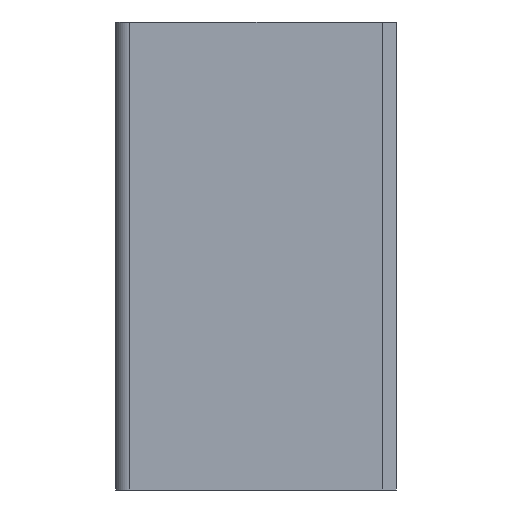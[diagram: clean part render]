
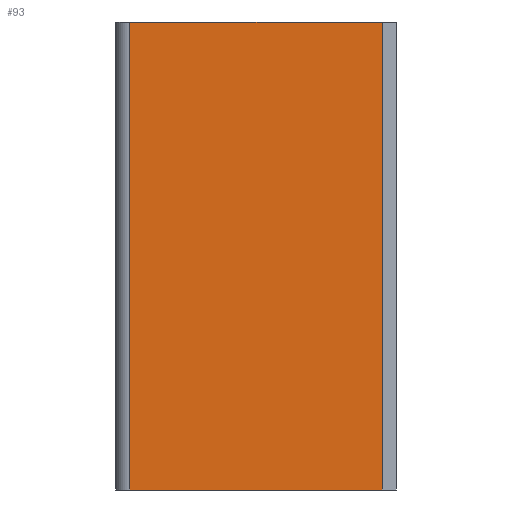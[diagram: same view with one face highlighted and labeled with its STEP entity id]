
A CAD part, left-side view. The second image highlights one B-rep face of the part: STEP entity #93.
In plain terms, the highlighted face is a extrusion surface.
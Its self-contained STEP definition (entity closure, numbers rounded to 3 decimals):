
#54=CARTESIAN_POINT('Control Point',(0.,3.,-100.)) ;
#55=CARTESIAN_POINT('Control Point',(0.,3.,0.)) ;
#59=CARTESIAN_POINT('Line Origine',(0.,30.,0.)) ;
#63=CARTESIAN_POINT('Vertex',(0.,3.,0.)) ;
#65=CARTESIAN_POINT('Vertex',(0.,57.,0.)) ;
#68=CARTESIAN_POINT('Line Origine',(0.,57.,-50.)) ;
#72=CARTESIAN_POINT('Vertex',(0.,57.,-100.)) ;
#75=CARTESIAN_POINT('Line Origine',(0.,30.,-100.)) ;
#79=CARTESIAN_POINT('Vertex',(0.,3.,-100.)) ;
#82=CARTESIAN_POINT('Line Origine',(0.,3.,-50.)) ;
#56=DIRECTION('Vector Direction',(0.,1.,0.)) ;
#60=DIRECTION('Vector Direction',(0.,1.,0.)) ;
#69=DIRECTION('Vector Direction',(0.,0.,1.)) ;
#76=DIRECTION('Vector Direction',(0.,1.,0.)) ;
#83=DIRECTION('Vector Direction',(0.,0.,1.)) ;
#88=ORIENTED_EDGE('',*,*,#67,.T.) ;
#89=ORIENTED_EDGE('',*,*,#74,.T.) ;
#90=ORIENTED_EDGE('',*,*,#81,.T.) ;
#91=ORIENTED_EDGE('',*,*,#86,.T.) ;
#57=VECTOR('Extrusion Surface Vector',#56,1.) ;
#61=VECTOR('Line Direction',#60,1.) ;
#70=VECTOR('Line Direction',#69,1.) ;
#77=VECTOR('Line Direction',#76,1.) ;
#84=VECTOR('Line Direction',#83,1.) ;
#93=ADVANCED_FACE('Superficie.1',(#92),#58,.T.) ;
#53=B_SPLINE_CURVE_WITH_KNOTS('',1,(#54,#55),.UNSPECIFIED.,.F.,.U.,(2,2),(-50.,50.),.UNSPECIFIED.) ;
#67=EDGE_CURVE('',#64,#66,#62,.T.) ;
#74=EDGE_CURVE('',#66,#73,#71,.F.) ;
#81=EDGE_CURVE('',#73,#80,#78,.F.) ;
#86=EDGE_CURVE('',#80,#64,#85,.T.) ;
#87=EDGE_LOOP('',(#88,#89,#90,#91)) ;
#92=FACE_OUTER_BOUND('',#87,.T.) ;
#62=LINE('Line',#59,#61) ;
#71=LINE('Line',#68,#70) ;
#78=LINE('Line',#75,#77) ;
#85=LINE('Line',#82,#84) ;
#58=SURFACE_OF_LINEAR_EXTRUSION('generated tabulated cylinder',#53,#57) ;
#64=VERTEX_POINT('',#63) ;
#66=VERTEX_POINT('',#65) ;
#73=VERTEX_POINT('',#72) ;
#80=VERTEX_POINT('',#79) ;
